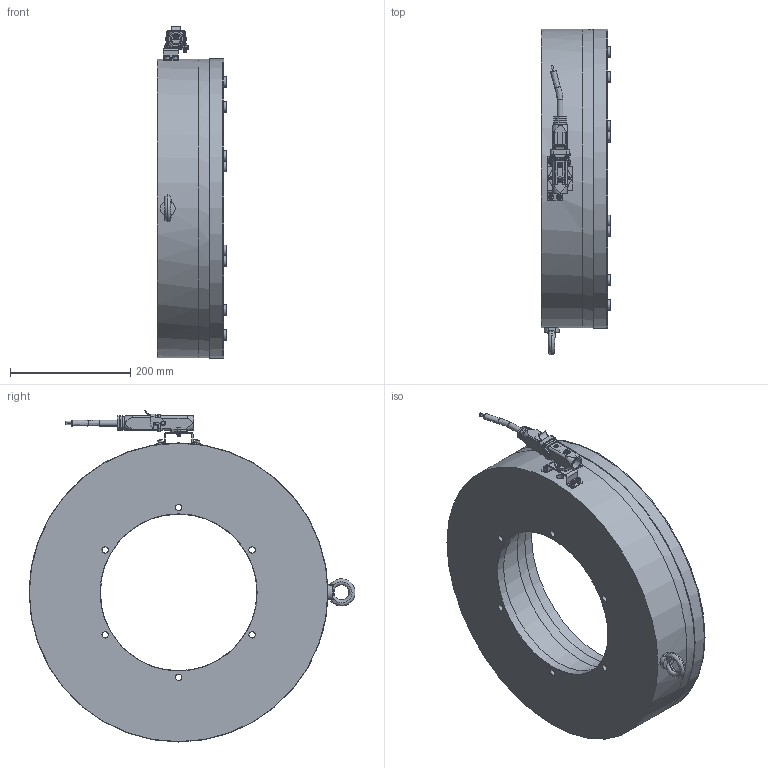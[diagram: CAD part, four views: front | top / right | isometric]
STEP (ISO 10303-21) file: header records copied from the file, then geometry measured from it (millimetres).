
FILE_DESCRIPTION(/* description */ (''),/* implementation_level */ '2;1');
FILE_NAME(/* name */ 'X:\INVENTOR\DISEGNI\08_Freni_Friz_Elettmag_Monodisco\08_28 EMFL_DF\EMFL_DF STEP\08_28_500_11 EMFL500_DF-B_S@STEP.stp',/* time_stamp */ '2018-04-23T16:12:19+02:00',/* author */ ('stefano'),/* organization */ (''),/* preprocessor_version */ 'ST-DEVELOPER v17',/* originating_system */ 'Autodesk Inventor 2018',/* authorisation */ '');
FILE_SCHEMA (('AUTOMOTIVE_DESIGN { 1 0 10303 214 3 1 1 }'));
Length unit declared in the file: millimetre
Products named in the file (1): 08_28_500_11 EMFL500_DF-B - Spina_Substitute_1
Bounding box: 115 x 541.5 x 551.6 mm (x, y, z)
Volume: 12970628.2 mm3; surface area: 1097592.5 mm2
Topology: 3 solids, 3 shells, 1466 faces, 4095 edges, 2720 vertices
Faces by surface type: plane 876, cylinder 478, cone 69, bspline 25, torus 15, sphere 3
Full cylindrical faces by diameter (mm): 0.753 x1, 0.986 x1, 1.05 x1, 2.5 x2, 3 x3, 3.2 x1, 3.25 x2, 3.59 x1, 4 x3, 4.675 x2, 4.8 x2, 5 x20, 5.5 x2, 6 x2, 6.2 x1, 7 x1, 8.2 x2, 8.5 x4, 9.5 x2, 10.5 x6, 12 x1, 12.1 x8, 13.5 x2, 16 x2, 18 x17, 18.6 x1, 20 x16, 20.6 x1, 260 x1, 302 x2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
Entity records: 50865 total; most frequent: CARTESIAN_POINT 10245, DIRECTION 8277, ORIENTED_EDGE 8176, EDGE_CURVE 4088, AXIS2_PLACEMENT_3D 2922, VERTEX_POINT 2720, LINE 2433, VECTOR 2433
